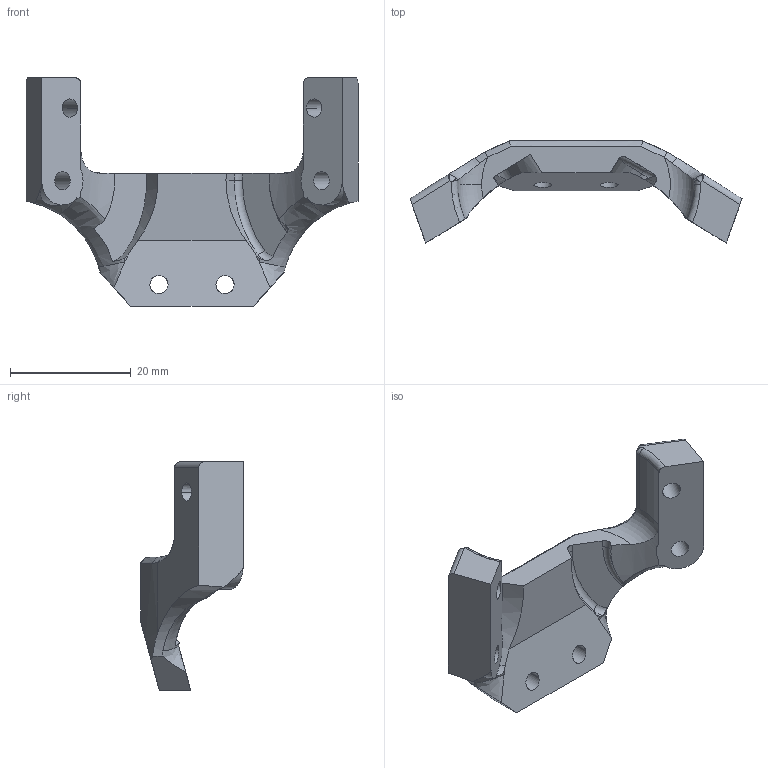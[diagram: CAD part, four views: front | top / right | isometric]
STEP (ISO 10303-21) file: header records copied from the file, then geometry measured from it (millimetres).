
FILE_DESCRIPTION (( 'STEP AP214' ), '1' );
FILE_NAME ('Ì44_ÏÌ_Êðûøêà Àìîðòèçàòîðîâ.STEP', '2019-03-21T14:07:57', ( '' ), ( '' ), 'SwSTEP 2.0', 'SolidWorks 2018', '' );
FILE_SCHEMA (( 'AUTOMOTIVE_DESIGN' ));
Length unit declared in the file: millimetre
Products named in the file (1): Ì44_ÏÌ_Êðûøêà Àìîðòèçàòîðîâ
Bounding box: 54.94 x 16.95 x 37.8 mm (x, y, z)
Volume: 6120.5 mm3; surface area: 3908.1 mm2
Topology: 1 solids, 1 shells, 100 faces, 262 edges, 164 vertices
Faces by surface type: cylinder 45, plane 22, bspline 21, torus 12
Entity records: 5929 total; most frequent: CARTESIAN_POINT 3773, ORIENTED_EDGE 516, DIRECTION 352, EDGE_CURVE 258, VERTEX_POINT 164, AXIS2_PLACEMENT_3D 143, EDGE_LOOP 112, FACE_OUTER_BOUND 100
